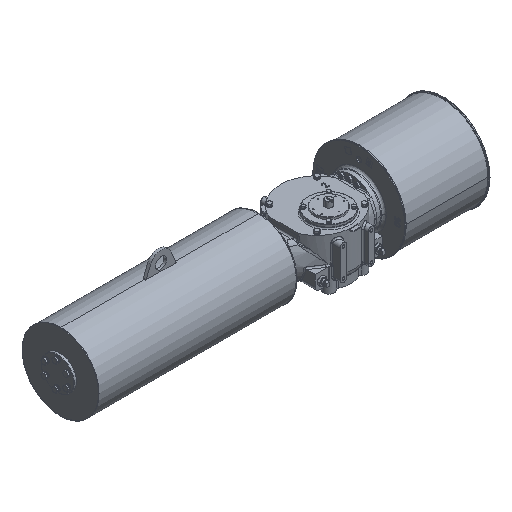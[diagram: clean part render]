
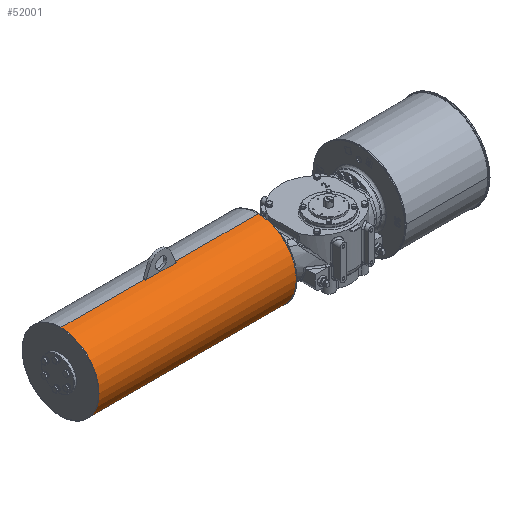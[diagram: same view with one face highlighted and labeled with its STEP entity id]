
A CAD part, isometric view. The second image highlights one B-rep face of the part: STEP entity #52001.
In plain terms, the highlighted cylindrical face has radius 136.5 mm (diameter 273 mm), a partial arc.
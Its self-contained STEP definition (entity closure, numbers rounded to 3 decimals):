
#2183 = LINE ( 'NONE', #23266, #58214 ) ;
#3588 = CARTESIAN_POINT ( 'NONE',  ( -177.023, 35.296, 2. ) ) ;
#3771 = CARTESIAN_POINT ( 'NONE',  ( -177.023, 35.296, -134.5 ) ) ;
#4136 = EDGE_LOOP ( 'NONE', ( #70535, #57659, #64581, #8392, #38835, #44873, #50230, #15258, #54656 ) ) ;
#4489 = EDGE_CURVE ( 'NONE', #33242, #55121, #53620, .T. ) ;
#7957 = AXIS2_PLACEMENT_3D ( 'NONE', #67733, #27783, #56288 ) ;
#8040 = CARTESIAN_POINT ( 'NONE',  ( -476.523, 35.296, 138.5 ) ) ;
#8392 = ORIENTED_EDGE ( 'NONE', *, *, #4489, .T. ) ;
#10713 = DIRECTION ( 'NONE',  ( 0., 0., 1. ) ) ;
#12088 = DIRECTION ( 'NONE',  ( 1., 0., 0. ) ) ;
#13809 = CARTESIAN_POINT ( 'NONE',  ( -884.023, 35.296, 2. ) ) ;
#15258 = ORIENTED_EDGE ( 'NONE', *, *, #25608, .T. ) ;
#16198 = VECTOR ( 'NONE', #12088, 1000. ) ;
#18169 = CARTESIAN_POINT ( 'NONE',  ( -177.023, -101.204, 2. ) ) ;
#18925 = DIRECTION ( 'NONE',  ( -1., 0., 0. ) ) ;
#19698 = CARTESIAN_POINT ( 'NONE',  ( -884.023, 35.296, 138.5 ) ) ;
#21432 = CARTESIAN_POINT ( 'NONE',  ( -180.523, 35.296, 2. ) ) ;
#21769 = DIRECTION ( 'NONE',  ( -1., 0., 0. ) ) ;
#21881 = EDGE_CURVE ( 'NONE', #58666, #55960, #39601, .T. ) ;
#22683 = CARTESIAN_POINT ( 'NONE',  ( -476.523, 35.296, 2. ) ) ;
#23266 = CARTESIAN_POINT ( 'NONE',  ( -180.523, 35.296, -134.5 ) ) ;
#23974 = DIRECTION ( 'NONE',  ( -1., 0., 0. ) ) ;
#24092 = CARTESIAN_POINT ( 'NONE',  ( -476.523, 30.296, 138.408 ) ) ;
#25608 = EDGE_CURVE ( 'NONE', #59099, #59589, #57793, .T. ) ;
#27783 = DIRECTION ( 'NONE',  ( -1., 0., 0. ) ) ;
#27878 = FACE_OUTER_BOUND ( 'NONE', #4136, .T. ) ;
#28576 = AXIS2_PLACEMENT_3D ( 'NONE', #22683, #66707, #46263 ) ;
#31623 = CARTESIAN_POINT ( 'NONE',  ( -584.523, 30.296, 138.408 ) ) ;
#31993 = AXIS2_PLACEMENT_3D ( 'NONE', #3588, #21769, #70433 ) ;
#32125 = VECTOR ( 'NONE', #57097, 1000. ) ;
#32854 = VECTOR ( 'NONE', #37862, 1000. ) ;
#33242 = VERTEX_POINT ( 'NONE', #56762 ) ;
#34151 = VERTEX_POINT ( 'NONE', #3771 ) ;
#35626 = CARTESIAN_POINT ( 'NONE',  ( -180.523, 35.296, 138.5 ) ) ;
#35633 = DIRECTION ( 'NONE',  ( 0., 0., 1. ) ) ;
#37862 = DIRECTION ( 'NONE',  ( -1., 0., 0. ) ) ;
#38835 = ORIENTED_EDGE ( 'NONE', *, *, #53071, .T. ) ;
#39209 = EDGE_CURVE ( 'NONE', #66120, #33242, #39785, .T. ) ;
#39601 = LINE ( 'NONE', #44664, #16198 ) ;
#39785 = CIRCLE ( 'NONE', #48949, 136.5 ) ;
#40224 = EDGE_CURVE ( 'NONE', #34151, #53360, #2183, .T. ) ;
#42182 = DIRECTION ( 'NONE',  ( 0., 0., 1. ) ) ;
#42699 = EDGE_CURVE ( 'NONE', #34151, #66120, #43436, .T. ) ;
#43427 = CIRCLE ( 'NONE', #28576, 136.5 ) ;
#43436 = CIRCLE ( 'NONE', #31993, 136.5 ) ;
#43976 = DIRECTION ( 'NONE',  ( -1., 0., 0. ) ) ;
#44664 = CARTESIAN_POINT ( 'NONE',  ( -180.523, 30.296, 138.408 ) ) ;
#44873 = ORIENTED_EDGE ( 'NONE', *, *, #21881, .F. ) ;
#45125 = CIRCLE ( 'NONE', #68001, 136.5 ) ;
#46263 = DIRECTION ( 'NONE',  ( 0., -1., 0. ) ) ;
#48949 = AXIS2_PLACEMENT_3D ( 'NONE', #62592, #18925, #42182 ) ;
#50230 = ORIENTED_EDGE ( 'NONE', *, *, #66433, .T. ) ;
#52001 = ADVANCED_FACE ( 'NONE', ( #27878 ), #65804, .T. ) ;
#53071 = EDGE_CURVE ( 'NONE', #55121, #55960, #43427, .T. ) ;
#53360 = VERTEX_POINT ( 'NONE', #56568 ) ;
#53620 = LINE ( 'NONE', #54665, #32854 ) ;
#53744 = CARTESIAN_POINT ( 'NONE',  ( -584.523, 35.296, 138.5 ) ) ;
#54656 = ORIENTED_EDGE ( 'NONE', *, *, #60194, .T. ) ;
#54665 = CARTESIAN_POINT ( 'NONE',  ( -180.523, 35.296, 138.5 ) ) ;
#55121 = VERTEX_POINT ( 'NONE', #8040 ) ;
#55960 = VERTEX_POINT ( 'NONE', #24092 ) ;
#56288 = DIRECTION ( 'NONE',  ( 0., 1., 0. ) ) ;
#56568 = CARTESIAN_POINT ( 'NONE',  ( -884.023, 35.296, -134.5 ) ) ;
#56762 = CARTESIAN_POINT ( 'NONE',  ( -177.023, 35.296, 138.5 ) ) ;
#57097 = DIRECTION ( 'NONE',  ( -1., 0., 0. ) ) ;
#57659 = ORIENTED_EDGE ( 'NONE', *, *, #42699, .T. ) ;
#57793 = LINE ( 'NONE', #35626, #32125 ) ;
#58214 = VECTOR ( 'NONE', #23974, 1000. ) ;
#58272 = CIRCLE ( 'NONE', #7957, 136.5 ) ;
#58666 = VERTEX_POINT ( 'NONE', #31623 ) ;
#59099 = VERTEX_POINT ( 'NONE', #53744 ) ;
#59589 = VERTEX_POINT ( 'NONE', #19698 ) ;
#60194 = EDGE_CURVE ( 'NONE', #59589, #53360, #45125, .T. ) ;
#61783 = DIRECTION ( 'NONE',  ( 1., 0., 0. ) ) ;
#62592 = CARTESIAN_POINT ( 'NONE',  ( -177.023, 35.296, 2. ) ) ;
#64581 = ORIENTED_EDGE ( 'NONE', *, *, #39209, .T. ) ;
#65038 = AXIS2_PLACEMENT_3D ( 'NONE', #21432, #43976, #10713 ) ;
#65804 = CYLINDRICAL_SURFACE ( 'NONE', #65038, 136.5 ) ;
#66120 = VERTEX_POINT ( 'NONE', #18169 ) ;
#66433 = EDGE_CURVE ( 'NONE', #58666, #59099, #58272, .T. ) ;
#66707 = DIRECTION ( 'NONE',  ( 1., 0., 0. ) ) ;
#67733 = CARTESIAN_POINT ( 'NONE',  ( -584.523, 35.296, 2. ) ) ;
#68001 = AXIS2_PLACEMENT_3D ( 'NONE', #13809, #61783, #35633 ) ;
#70433 = DIRECTION ( 'NONE',  ( 0., 0., 1. ) ) ;
#70535 = ORIENTED_EDGE ( 'NONE', *, *, #40224, .F. ) ;
